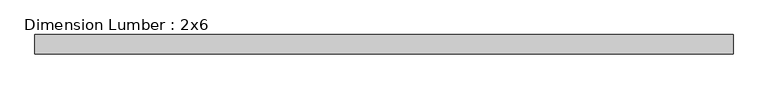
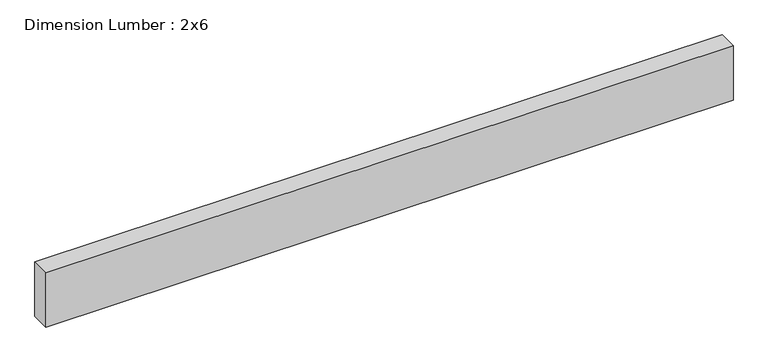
"""IFC4 building model written with IfcOpenShell, lengths in millimetres: beam geometry, Dimension Lumber : 2x6."""

from ifc_helpers import new_model, si_unit, frame, origin, place, context, project, spatial, polyline, outline, extrude, source, transform, mapped, element, save


def dimension_lumber_2x6_02983d30(model_context):
    return source(origin(), model_context, "Body", "SweptSolid", [
        extrude(outline(polyline([(914.3495733, 25.4), (914.3495733, -25.4), (-914.3495733, -25.4), (-914.3495733, 25.4), (914.3495733, 25.4)])), frame((0.0, 0.0, -76.2), z_axis=(0.0, 0.0, 1.0), x_axis=(1.0, 0.0, 0.0)), (0.0, 0.0, 1.0), 152.4),
    ])


if __name__ == "__main__":
    model = new_model("IFC4")
    model_context = context("Model", 3, world=origin())
    ifc_project = project(units=[si_unit("LENGTHUNIT", "METRE", prefix="MILLI")], contexts=[model_context])
    site = spatial("IfcSite", under=ifc_project)
    building = spatial("IfcBuilding", under=site)
    placement = place(None, origin())
    dimension_lumber_2x6_shape = dimension_lumber_2x6_02983d30(model_context)
    element("IfcBeam", 1, ObjectType="Dimension Lumber : 2x6", at=placement, inside=building, context=model_context, shape_type="MappedRepresentation", body=[
        mapped(dimension_lumber_2x6_shape, transform((0.0, 0.0, 0.0), x_axis=(1.0, 0.0, 0.0), y_axis=(0.0, 1.0, 0.0), z_axis=(0.0, 0.0, 1.0))),
    ])
    save(model, "model.ifc")
